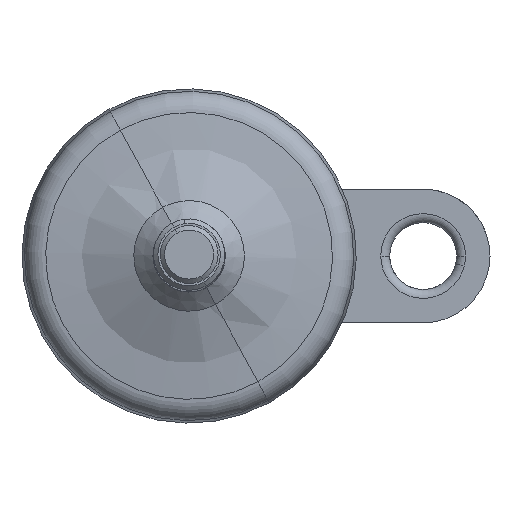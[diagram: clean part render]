
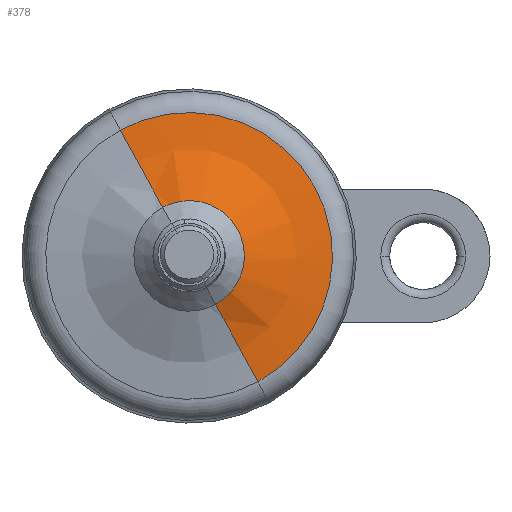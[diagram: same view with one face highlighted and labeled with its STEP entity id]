
A CAD part, top view. The second image highlights one B-rep face of the part: STEP entity #378.
In plain terms, the highlighted face is a revolution surface.
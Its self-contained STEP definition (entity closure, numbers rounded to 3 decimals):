
#238=CARTESIAN_POINT('Vertex',(-4.315,7.898,22.602)) ;
#245=CARTESIAN_POINT('Vertex',(4.315,-7.898,22.602)) ;
#248=CARTESIAN_POINT('Axis2P3D Location',(0.,0.,22.602)) ;
#340=CARTESIAN_POINT('Control Point',(-4.315,7.898,22.602)) ;
#341=CARTESIAN_POINT('Control Point',(-6.844,12.529,19.574)) ;
#342=CARTESIAN_POINT('Control Point',(-9.61,17.591,17.401)) ;
#343=CARTESIAN_POINT('Control Point',(-12.509,22.898,16.206)) ;
#344=CARTESIAN_POINT('Control Point',(-15.424,28.233,15.997)) ;
#345=CARTESIAN_POINT('Axis1P Location',(0.,0.,65.968)) ;
#350=CARTESIAN_POINT('Control Point',(-4.315,7.898,22.602)) ;
#351=CARTESIAN_POINT('Control Point',(-6.844,12.529,19.574)) ;
#352=CARTESIAN_POINT('Control Point',(-9.61,17.591,17.401)) ;
#353=CARTESIAN_POINT('Control Point',(-12.509,22.898,16.206)) ;
#354=CARTESIAN_POINT('Control Point',(-15.424,28.233,15.997)) ;
#355=CARTESIAN_POINT('Vertex',(-15.424,28.233,15.997)) ;
#359=CARTESIAN_POINT('Control Point',(4.315,-7.898,22.602)) ;
#360=CARTESIAN_POINT('Control Point',(6.844,-12.529,19.574)) ;
#361=CARTESIAN_POINT('Control Point',(9.61,-17.591,17.401)) ;
#362=CARTESIAN_POINT('Control Point',(12.509,-22.898,16.206)) ;
#363=CARTESIAN_POINT('Control Point',(15.424,-28.233,15.997)) ;
#364=CARTESIAN_POINT('Vertex',(15.424,-28.233,15.997)) ;
#367=CARTESIAN_POINT('Axis2P3D Location',(0.,0.,15.997)) ;
#249=DIRECTION('Axis2P3D Direction',(0.,0.,1.)) ;
#346=DIRECTION('Axis1P Direction',(0.,-0.,-1.)) ;
#368=DIRECTION('Axis2P3D Direction',(0.,-0.,-1.)) ;
#250=AXIS2_PLACEMENT_3D('Circle Axis2P3D',#248,#249,$) ;
#369=AXIS2_PLACEMENT_3D('Circle Axis2P3D',#367,#368,$) ;
#373=ORIENTED_EDGE('',*,*,#357,.T.) ;
#374=ORIENTED_EDGE('',*,*,#252,.F.) ;
#375=ORIENTED_EDGE('',*,*,#366,.F.) ;
#376=ORIENTED_EDGE('',*,*,#371,.T.) ;
#378=ADVANCED_FACE('PartBody',(#377),#348,.T.) ;
#347=AXIS1_PLACEMENT('Revolution Surface Axis1P',#345,#346) ;
#339=B_SPLINE_CURVE_WITH_KNOTS('',4,(#340,#341,#342,#343,#344),.UNSPECIFIED.,.F.,.U.,(5,5),(-104.591,-80.096),.UNSPECIFIED.) ;
#349=B_SPLINE_CURVE_WITH_KNOTS('',4,(#350,#351,#352,#353,#354),.UNSPECIFIED.,.F.,.U.,(5,5),(-104.591,-80.096),.UNSPECIFIED.) ;
#358=B_SPLINE_CURVE_WITH_KNOTS('',4,(#359,#360,#361,#362,#363),.UNSPECIFIED.,.F.,.U.,(5,5),(-104.591,-80.096),.UNSPECIFIED.) ;
#251=CIRCLE('generated circle',#250,9.) ;
#370=CIRCLE('generated circle',#369,32.172) ;
#252=EDGE_CURVE('',#246,#239,#251,.T.) ;
#357=EDGE_CURVE('',#356,#239,#349,.F.) ;
#366=EDGE_CURVE('',#365,#246,#358,.F.) ;
#371=EDGE_CURVE('',#365,#356,#370,.F.) ;
#372=EDGE_LOOP('',(#373,#374,#375,#376)) ;
#377=FACE_OUTER_BOUND('',#372,.T.) ;
#348=SURFACE_OF_REVOLUTION('Surface of Revolution',#339,#347) ;
#239=VERTEX_POINT('',#238) ;
#246=VERTEX_POINT('',#245) ;
#356=VERTEX_POINT('',#355) ;
#365=VERTEX_POINT('',#364) ;
